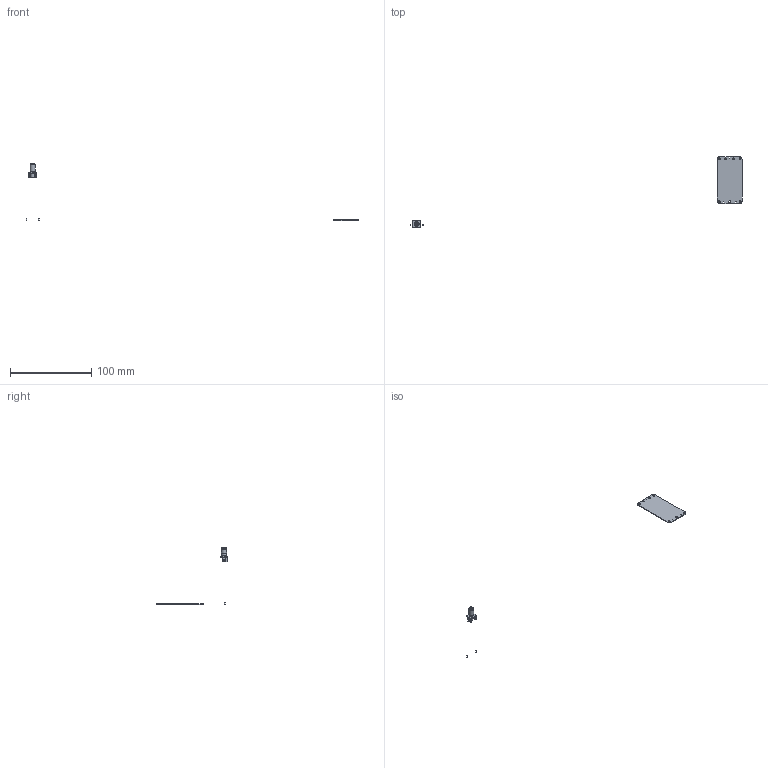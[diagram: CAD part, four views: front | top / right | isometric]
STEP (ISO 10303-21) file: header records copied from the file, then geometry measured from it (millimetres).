
FILE_DESCRIPTION(/* description */ ('Alibre Inc.'),/* implementation_level */ '2;1');
FILE_NAME(/* name */ 'export0',/* time_stamp */ '2007-07-17T20:14:27+02:00',/* author */ (''),/* organization */ (''),/* preprocessor_version */ 'ST-DEVELOPER v10',/* originating_system */ 'Alibre',/* authorisation */ '');
FILE_SCHEMA (('ALIBRE_SCHEMA','CONFIG_CONTROL_DESIGN'));
Length unit declared in the file: centimetre
Products named in the file (7): ID_1; ID_2
Bounding box: 408.58 x 86.67 x 70.16 mm (x, y, z)
Volume: 1782.9 mm3; surface area: 4588 mm2
Topology: 7 solids, 7 shells, 91 faces, 212 edges, 141 vertices
Faces by surface type: plane 68, cylinder 21, cone 2
Full cylindrical faces by diameter (mm): 0.8 x1, 1 x1, 1.25 x2, 2.2 x7, 4.1 x2, 4.6 x1, 5.3 x2, 6.22 x1
Entity records: 7368 total; most frequent: CARTESIAN_POINT 878, DIRECTION 558, CONSTRAINTPAIRUV 386, ORIENTED_EDGE 384, REFERENCEDEPENDENTUV 310, VECTOR 300, REFERENCEPOINTUV 257, LINE 226
